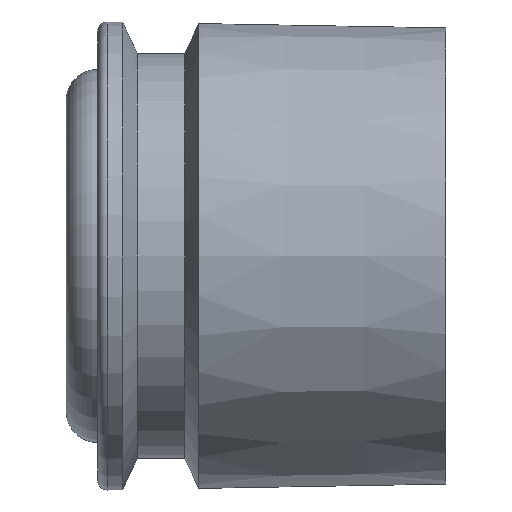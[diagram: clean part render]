
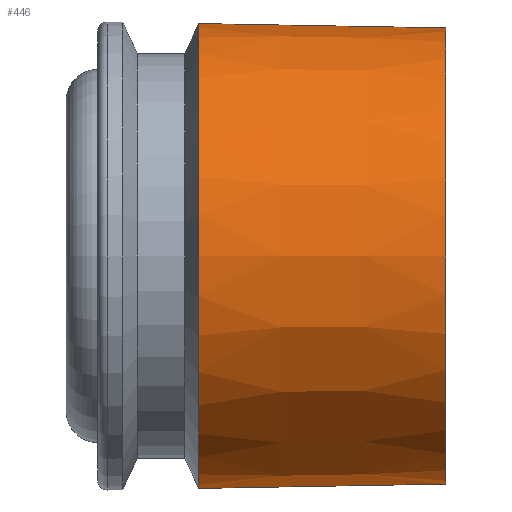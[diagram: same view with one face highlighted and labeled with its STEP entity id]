
A CAD part, left-side view. The second image highlights one B-rep face of the part: STEP entity #446.
In plain terms, the highlighted conical face has half-angle 1 degrees and reference radius 7.344 mm.
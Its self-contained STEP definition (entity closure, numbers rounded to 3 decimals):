
#56 = DIRECTION ( 'NONE',  ( 0., 0., 1. ) ) ;
#65 = CARTESIAN_POINT ( 'NONE',  ( 0., 7.806, -7.344 ) ) ;
#100 = DIRECTION ( 'NONE',  ( 0., 1., 0. ) ) ;
#114 = FACE_OUTER_BOUND ( 'NONE', #413, .T. ) ;
#148 = CIRCLE ( 'NONE', #428, 7.344 ) ;
#208 = VERTEX_POINT ( 'NONE', #297 ) ;
#217 = DIRECTION ( 'NONE',  ( 0., 0., -1. ) ) ;
#232 = VERTEX_POINT ( 'NONE', #516 ) ;
#250 = DIRECTION ( 'NONE',  ( 0., 0., -1. ) ) ;
#254 = EDGE_CURVE ( 'NONE', #232, #208, #312, .T. ) ;
#280 = AXIS2_PLACEMENT_3D ( 'NONE', #412, #639, #250 ) ;
#297 = CARTESIAN_POINT ( 'NONE',  ( 0., 7.806, 7.344 ) ) ;
#312 = LINE ( 'NONE', #372, #551 ) ;
#325 = ORIENTED_EDGE ( 'NONE', *, *, #453, .F. ) ;
#372 = CARTESIAN_POINT ( 'NONE',  ( 0., 7.806, 7.344 ) ) ;
#380 = CARTESIAN_POINT ( 'NONE',  ( 0., 7.806, 0. ) ) ;
#412 = CARTESIAN_POINT ( 'NONE',  ( 0., 0., 0. ) ) ;
#413 = EDGE_LOOP ( 'NONE', ( #325, #594, #668, #626 ) ) ;
#428 = AXIS2_PLACEMENT_3D ( 'NONE', #380, #606, #217 ) ;
#444 = CARTESIAN_POINT ( 'NONE',  ( 0., 7.806, -7.344 ) ) ;
#446 = ADVANCED_FACE ( 'NONE', ( #114 ), #663, .T. ) ;
#453 = EDGE_CURVE ( 'NONE', #569, #535, #559, .T. ) ;
#475 = DIRECTION ( 'NONE',  ( 0., 1., 0.017 ) ) ;
#503 = EDGE_CURVE ( 'NONE', #208, #535, #148, .T. ) ;
#514 = VECTOR ( 'NONE', #614, 1000. ) ;
#516 = CARTESIAN_POINT ( 'NONE',  ( 0., 0., 7.208 ) ) ;
#535 = VERTEX_POINT ( 'NONE', #65 ) ;
#551 = VECTOR ( 'NONE', #475, 1000. ) ;
#559 = LINE ( 'NONE', #444, #514 ) ;
#569 = VERTEX_POINT ( 'NONE', #621 ) ;
#594 = ORIENTED_EDGE ( 'NONE', *, *, #641, .F. ) ;
#606 = DIRECTION ( 'NONE',  ( 0., -1., 0. ) ) ;
#614 = DIRECTION ( 'NONE',  ( 0., 1., -0.017 ) ) ;
#621 = CARTESIAN_POINT ( 'NONE',  ( 0., 0., -7.208 ) ) ;
#626 = ORIENTED_EDGE ( 'NONE', *, *, #503, .T. ) ;
#639 = DIRECTION ( 'NONE',  ( 0., -1., 0. ) ) ;
#641 = EDGE_CURVE ( 'NONE', #232, #569, #678, .T. ) ;
#652 = AXIS2_PLACEMENT_3D ( 'NONE', #672, #100, #56 ) ;
#663 = CONICAL_SURFACE ( 'NONE', #652, 7.344, 0.017 ) ;
#668 = ORIENTED_EDGE ( 'NONE', *, *, #254, .T. ) ;
#672 = CARTESIAN_POINT ( 'NONE',  ( 0., 7.806, 0. ) ) ;
#678 = CIRCLE ( 'NONE', #280, 7.208 ) ;
